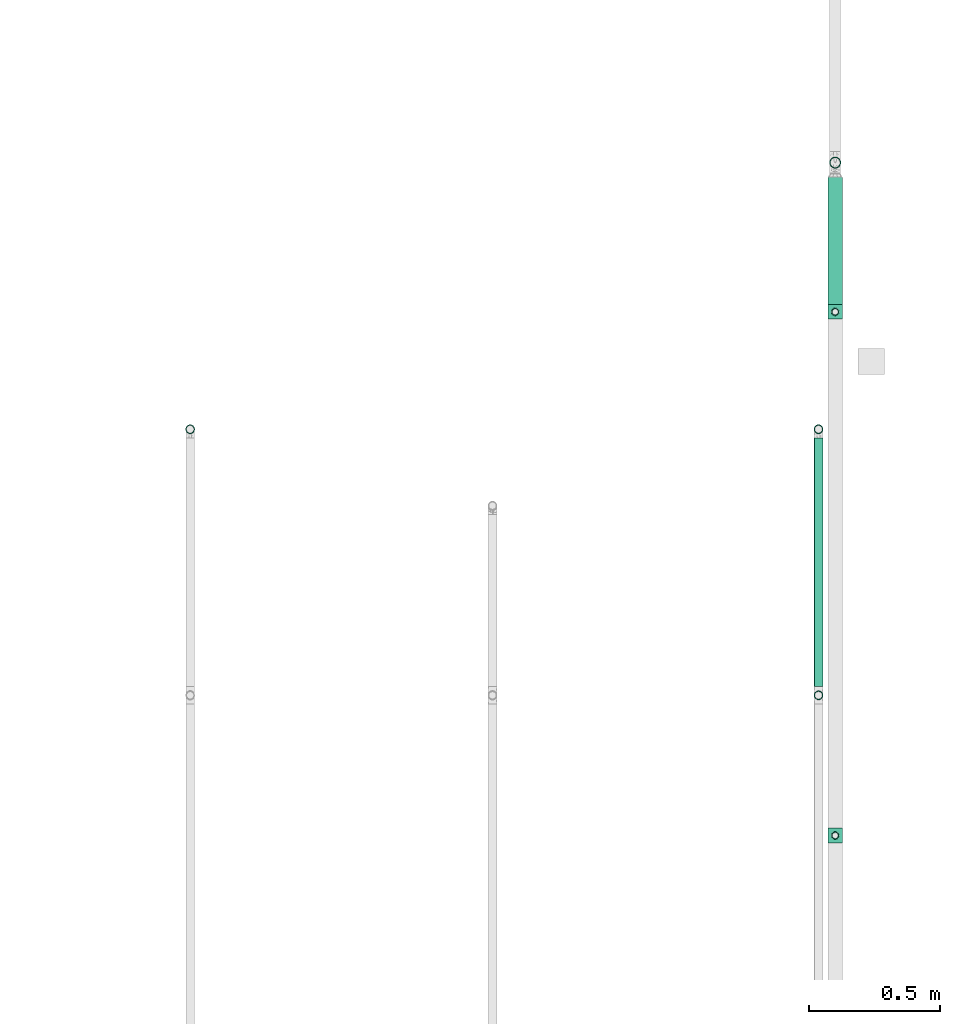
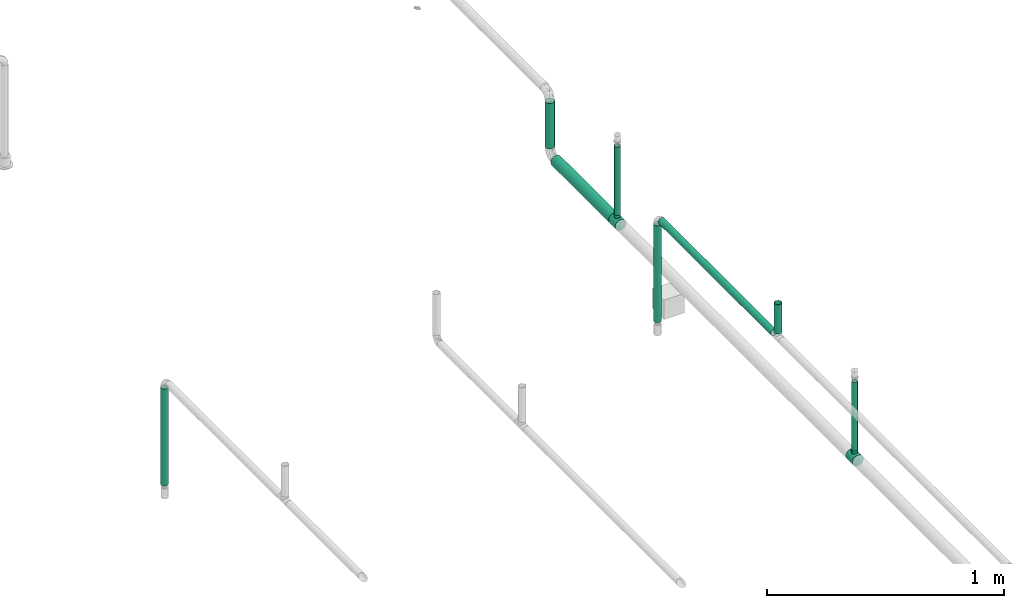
# One storey, part 14 of 95: 8 flow segments, 2 flow fittings.
"""IFC2X3 building model written with IfcOpenShell, lengths in millimetres."""

from ifc_helpers import new_model, entity, si_unit, converted_unit, derived_unit, direction, frame, origin_with_axes, origin_2d_with_axis, place, context, subcontext, project, spatial, hollow_circle, extrude, open_shell, surface_model, source, transform, mapped, type_object, element, save


model = new_model("IFC2X3")

# Units and contexts
model_context = context("Model", 3, precision=0.01, world=frame((0.0, 4.29681676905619e-09, 0.0)), true_north=direction((4.01073788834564e-13, 1.0)))
plan_context = context("Plan", 3, precision=0.01, world=frame((0.0, 4.29681676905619e-09, 0.0)), true_north=direction((4.01073788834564e-13, 1.0)))
body_context = subcontext(model_context, "Body", "Model", "MODEL_VIEW")
ifc_project = project(units=[converted_unit("PLANEANGLEUNIT", "DEGREE", entity("IfcPositiveLengthMeasure", 0.0174532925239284), si_unit("PLANEANGLEUNIT", "RADIAN"), dimensions=[0, 0, 0, 0, 0, 0, 0]), si_unit("AREAUNIT", "SQUARE_METRE"), si_unit("LENGTHUNIT", "METRE", prefix="MILLI"), si_unit("MASSUNIT", "GRAM", prefix="KILO"), si_unit("POWERUNIT", "WATT"), si_unit("PRESSUREUNIT", "PASCAL"), si_unit("FORCEUNIT", "NEWTON", prefix="KILO"), si_unit("ELECTRICVOLTAGEUNIT", "VOLT"), si_unit("ELECTRICCURRENTUNIT", "AMPERE"), si_unit("THERMODYNAMICTEMPERATUREUNIT", "DEGREE_CELSIUS"), si_unit("TIMEUNIT", "SECOND"), si_unit("VOLUMEUNIT", "CUBIC_METRE"), derived_unit("LINEARVELOCITYUNIT", [(si_unit("LENGTHUNIT", "METRE"), 1), (si_unit("TIMEUNIT", "SECOND"), -1)]), derived_unit("VOLUMETRICFLOWRATEUNIT", [(si_unit("VOLUMEUNIT", "CUBIC_METRE"), 1), (si_unit("TIMEUNIT", "SECOND"), -1)]), derived_unit("THERMALTRANSMITTANCEUNIT", [(si_unit("POWERUNIT", "WATT"), 1), (si_unit("THERMODYNAMICTEMPERATUREUNIT", "KELVIN"), -1), (si_unit("AREAUNIT", "SQUARE_METRE"), -1)]), derived_unit("SOUNDPRESSUREUNIT", [(si_unit("PRESSUREUNIT", "PASCAL"), 1)])], contexts=[model_context, plan_context])

# Site, building, storey
site_placement = place(None, frame((0.0, -4.29681676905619e-09, 0.0), z_axis=(0.0, 0.0, 1.0), x_axis=(1.0, 0.0, 0.0)))
site = spatial("IfcSite", under=ifc_project, at=site_placement, CompositionType="ELEMENT")
building_placement = place(site_placement, frame((0.0, 4.29681676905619e-09, 0.0), z_axis=(0.0, 0.0, 1.0), x_axis=(1.0, 0.0, 0.0)))
building = spatial("IfcBuilding", under=site, at=building_placement, Name="mc-building", CompositionType="ELEMENT")
storey_placement = place(building_placement, frame((0.0, 0.0, 210900.0), z_axis=(0.0, 0.0, 1.0), x_axis=(1.0, 0.0, 0.0)))
storey = spatial("IfcBuildingStorey", under=building, at=storey_placement, Name="Nivå F", CompositionType="ELEMENT", Elevation=210900.0)

# Flow fittings
pipe_fitting_type = type_object("IfcPipeFittingType", Name="magi_pipe_fe_tee_centric_90_NOR", PredefinedType="JUNCTION")
shared_shape_1 = source(origin_with_axes(), body_context, "Body", "SurfaceModel", [
    surface_model("IfcShellBasedSurfaceModel", [(-28.0, 6.98811, -26.08), (-28.0, 0.0, -27.0), (-28.0, 23.38269, -13.5), (-28.0, 13.5, -23.38269), (-28.0, 19.09188, -19.09188), (-28.0, -6.98811, -26.08), (-28.0, -13.5, 23.38269), (-28.0, -19.09188, -19.09188), (-28.0, -23.38269, -13.5), (-28.0, -13.5, -23.38269), (-28.0, -26.08, -6.98811), (-28.0, -27.0, 0.0), (-28.0, -23.38269, 13.5), (-28.0, 27.0, 0.0), (-28.0, 26.08, -6.98811), (-28.0, 23.38269, 13.5), (-28.0, 26.08, 6.98811), (-28.0, 6.98811, 26.08), (-28.0, 13.5, 23.38269), (-28.0, 19.09188, 19.09188), (-28.0, 0.0, 27.0), (-28.0, -19.09188, 19.09188), (-28.0, -26.08, 6.98811), (-28.0, -6.98811, 26.08), (28.0, 23.38269, -13.5), (28.0, 0.0, -27.0), (28.0, 6.98811, -26.08), (28.0, 19.09188, -19.09188), (28.0, 13.5, -23.38269), (28.0, -6.98811, -26.08), (28.0, -13.5, 23.38269), (28.0, -13.5, -23.38269), (28.0, -27.0, 0.0), (28.0, -19.09188, -19.09188), (28.0, -23.38269, -13.5), (28.0, -26.08, -6.98811), (28.0, 26.08, -6.98811), (28.0, 27.0, 0.0), (28.0, 26.08, 6.98811), (28.0, 23.38269, 13.5), (28.0, 19.09188, 19.09188), (28.0, 13.5, 23.38269), (28.0, 6.98811, 26.08), (28.0, 0.0, 27.0), (28.0, -23.38269, 13.5), (28.0, -19.09188, 19.09188), (28.0, -26.08, 6.98811), (28.0, -6.98811, 26.08), (28.0, -26.54, 3.49406), (13.13175, -26.56017, 4.85358), (14.0, -27.0, 0.0), (10.70092, -25.44621, 9.0272), (2.47065, -23.21862, 13.78027), (28.0, -24.73134, 10.24406), (7.04266, -24.13709, 12.09963), (-7.0439, -24.13745, 12.0989), (-28.0, -24.73134, 10.24406), (-10.70443, -25.44769, 9.02304), (-13.13218, -26.56039, 4.85241), (-28.0, -26.54, 3.49406), (-14.0, -27.0, 0.0), (-2.47466, -23.21904, 13.77955), (2.47065, -23.21862, -13.78027), (-28.0, -26.54, -3.49406), (-13.13218, -26.56039, -4.85241), (7.04266, -24.13709, -12.09963), (28.0, -24.73134, -10.24406), (28.0, -26.54, -3.49406), (13.13175, -26.56017, -4.85358), (10.70092, -25.44621, -9.0272), (-2.47466, -23.21904, -13.77955), (-7.0439, -24.13745, -12.0989), (-10.70443, -25.44769, -9.02304), (-28.0, -24.73134, -10.24406), (9.89949, -40.5, -9.89949), (0.0, -40.5, -14.0), (3.62347, -40.5, -13.52296), (7.0, -40.5, -12.12436), (12.12436, -40.5, -7.0), (13.52296, -40.5, -3.62347), (-12.12436, -40.5, -7.0), (-14.0, -40.5, 0.0), (-3.62347, -40.5, -13.52296), (-9.89949, -40.5, -9.89949), (-7.0, -40.5, -12.12436), (-13.52296, -40.5, -3.62347), (-13.52296, -40.5, 3.62347), (14.0, -40.5, 0.0), (13.52296, -40.5, 3.62347), (12.12436, -40.5, 7.0), (-9.89949, -40.5, 9.89949), (7.0, -40.5, 12.12436), (0.0, -40.5, 14.0), (9.89949, -40.5, 9.89949), (3.62347, -40.5, 13.52296), (-12.12436, -40.5, 7.0), (-3.62347, -40.5, 13.52296), (-7.0, -40.5, 12.12436), (-13.56609, -26.78019, 2.42621), (-4.75928, -23.67825, 12.93923), (13.56587, -26.78009, 2.42679), (-0.002, -23.21883, 13.77991), (4.75665, -23.67785, 12.93995), (13.56587, -26.78009, -2.42679), (4.75665, -23.67785, -12.93995), (-0.002, -23.21883, -13.77991), (-4.75928, -23.67825, -12.93923), (-13.56609, -26.78019, -2.42621)], [open_shell([[[0, 1, 2]], [[3, 0, 4]], [[5, 2, 1]], [[4, 0, 2]], [[6, 2, 5]], [[7, 8, 9]], [[5, 9, 6]], [[10, 11, 8]], [[9, 8, 11]], [[11, 12, 9]], [[13, 14, 2]], [[15, 16, 13]], [[2, 6, 15]], [[17, 18, 19]], [[15, 17, 19]], [[17, 15, 20]], [[21, 6, 12]], [[11, 22, 12]], [[23, 20, 6]], [[12, 6, 9]], [[6, 20, 15]], [[13, 2, 15]], [[24, 25, 26]], [[27, 26, 28]], [[25, 24, 29]], [[24, 26, 27]], [[24, 30, 29]], [[31, 32, 33]], [[32, 31, 29]], [[34, 32, 35]], [[32, 34, 33]], [[32, 29, 30]], [[24, 36, 37]], [[37, 38, 39]], [[39, 30, 24]], [[40, 41, 42]], [[40, 42, 39]], [[43, 39, 42]], [[44, 30, 45]], [[30, 44, 46]], [[30, 43, 47]], [[46, 32, 30]], [[39, 43, 30]], [[39, 24, 37]], [[48, 46, 49]], [[50, 32, 48]], [[46, 51, 49]], [[44, 45, 52]], [[50, 48, 49]], [[51, 53, 54]], [[52, 54, 44]], [[45, 21, 52]], [[54, 53, 44]], [[55, 56, 57]], [[58, 59, 60]], [[11, 60, 59]], [[58, 57, 22]], [[55, 61, 12]], [[51, 46, 53]], [[12, 56, 55]], [[12, 61, 21]], [[57, 56, 22]], [[61, 52, 21]], [[58, 22, 59]], [[45, 6, 21]], [[20, 47, 43]], [[23, 30, 47]], [[17, 43, 42]], [[39, 38, 16]], [[19, 41, 40]], [[15, 40, 39]], [[42, 41, 18]], [[13, 38, 37]], [[6, 30, 23]], [[23, 47, 20]], [[17, 20, 43]], [[42, 18, 17]], [[18, 41, 19]], [[15, 19, 40]], [[16, 15, 39]], [[38, 13, 16]], [[30, 6, 45]], [[2, 36, 24]], [[14, 37, 36]], [[4, 24, 27]], [[25, 29, 5]], [[0, 28, 26]], [[1, 26, 25]], [[27, 28, 3]], [[9, 29, 31]], [[13, 37, 14]], [[14, 36, 2]], [[4, 2, 24]], [[27, 3, 4]], [[3, 28, 0]], [[1, 0, 26]], [[5, 1, 25]], [[29, 9, 5]], [[31, 7, 9]], [[33, 34, 62]], [[60, 63, 64]], [[65, 62, 34]], [[66, 65, 34]], [[33, 62, 7]], [[32, 50, 67]], [[68, 69, 35]], [[68, 67, 50]], [[65, 66, 69]], [[35, 69, 66]], [[70, 71, 8]], [[72, 10, 73]], [[8, 7, 70]], [[72, 73, 71]], [[70, 7, 62]], [[72, 64, 10]], [[68, 35, 67]], [[64, 63, 10]], [[63, 60, 11]], [[73, 8, 71]], [[33, 7, 31]], [[74, 75, 76]], [[74, 76, 77]], [[74, 78, 79]], [[75, 74, 80]], [[81, 74, 79]], [[82, 83, 84]], [[83, 82, 80]], [[80, 81, 85]], [[80, 82, 75]], [[74, 81, 80]], [[79, 86, 81]], [[87, 88, 89]], [[90, 87, 89]], [[89, 91, 92]], [[91, 89, 93]], [[94, 92, 91]], [[86, 90, 95]], [[86, 87, 90]], [[90, 96, 97]], [[96, 90, 92]], [[89, 92, 90]], [[87, 86, 79]], [[86, 98, 81]], [[57, 95, 90]], [[86, 95, 58]], [[90, 97, 55]], [[99, 97, 96]], [[98, 60, 81]], [[58, 95, 57]], [[100, 49, 88]], [[96, 61, 99]], [[55, 57, 90]], [[92, 52, 101]], [[91, 102, 94]], [[52, 92, 94]], [[102, 91, 54]], [[86, 58, 98]], [[100, 87, 50]], [[89, 51, 93]], [[54, 91, 93]], [[49, 89, 88]], [[93, 51, 54]], [[52, 94, 102]], [[87, 100, 88]], [[49, 51, 89]], [[99, 55, 97]], [[92, 61, 96]], [[101, 61, 92]], [[79, 103, 87]], [[69, 78, 74]], [[79, 78, 68]], [[74, 77, 65]], [[103, 50, 87]], [[68, 78, 69]], [[76, 62, 104]], [[65, 69, 74]], [[75, 70, 105]], [[84, 106, 82]], [[104, 77, 76]], [[104, 65, 77]], [[79, 68, 103]], [[82, 70, 75]], [[64, 80, 85]], [[107, 81, 60]], [[107, 64, 85]], [[83, 80, 72]], [[75, 62, 76]], [[106, 70, 82]], [[84, 71, 106]], [[84, 83, 71]], [[71, 83, 72]], [[72, 80, 64]], [[81, 107, 85]], [[105, 62, 75]]])]),
])
for number, where, z_axis, x_axis, name in (
    (1, (535962.24677, 445656.17841, 3990.42676999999), (-1.0, 0.0, 0.0), (0.0, 1.0, 0.0), "magi_pipe_fe_tee_centric_90_NOR"),
    (2, (535962.24677, 447656.17841, 3990.42676999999), (-1.0, 0.0, 0.0), (0.0, 1.0, 0.0), "magi_pipe_fe_tee_centric_90_NOR"),
):
    element("IfcFlowFitting", number, at=place(storey_placement, frame(where, z_axis=z_axis, x_axis=x_axis)), inside=storey, type_object=pipe_fitting_type, Name=name, context=body_context, shape_type="MappedRepresentation", body=[
        mapped(shared_shape_1, transform((0.0, 0.0, 0.0), scale=1.0)),
    ])

# Flow segments
pipe_segment_type_1 = type_object("IfcPipeSegmentType", Name="SSt", PredefinedType="RIGIDSEGMENT")
shared_shape_2 = source(origin_with_axes(), body_context, "Body", "SweptSolid", [
    extrude(hollow_circle(Radius=14.0, WallThickness=2.0, at=origin_2d_with_axis()), frame((0.0, 0.0, 0.0), z_axis=(1.0, 0.0, 0.0), x_axis=(0.0, 1.0, 0.0)), (0.0, 0.0, 1.0), 352.5),
])
for number, where, z_axis, x_axis in (
    (3, (535962.24677, 445656.17841, 4030.92676999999), (1.0, 0.0, 0.0), (0.0, 0.0, 1.0)),
    (4, (535962.24677, 447656.17841, 4030.92676999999), (1.0, 0.0, 0.0), (0.0, 0.0, 1.0)),
):
    element("IfcFlowSegment", number, at=place(storey_placement, frame(where, z_axis=z_axis, x_axis=x_axis)), inside=storey, type_object=pipe_segment_type_1, Name="SSt", context=body_context, shape_type="MappedRepresentation", body=[
        mapped(shared_shape_2, transform((0.0, 0.0, 0.0), scale=1.0)),
    ])
shared_shape_3 = source(origin_with_axes(), body_context, "Body", "SweptSolid", [
    extrude(hollow_circle(Radius=27.0, WallThickness=2.0, at=origin_2d_with_axis()), frame((0.0, 0.0, 0.0), z_axis=(1.0, 0.0, 0.0), x_axis=(0.0, 1.0, 0.0)), (0.0, 0.0, 1.0), 488.0),
])
flow_segment_1_placement = place(storey_placement, frame((535962.24677, 448172.17841, 3990.42676999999), z_axis=(0.0, 0.0, 1.0), x_axis=(0.0, -1.0, 0.0)))
element("IfcFlowSegment", 5, at=flow_segment_1_placement, inside=storey, type_object=pipe_segment_type_1, Name="SSt", context=body_context, shape_type="MappedRepresentation", body=[
    mapped(shared_shape_3, transform((0.0, 0.0, 0.0), scale=1.0)),
])
pipe_segment_type_2 = type_object("IfcPipeSegmentType", Name="Stålrør normaltykke", PredefinedType="RIGIDSEGMENT")
shared_shape_4 = source(origin_with_axes(), body_context, "Body", "SweptSolid", [
    extrude(hollow_circle(Radius=21.2, WallThickness=2.0, at=origin_2d_with_axis()), frame((0.0, 0.0, 0.0), z_axis=(1.0, 0.0, 0.0), x_axis=(0.0, 1.0, 0.0)), (0.0, 0.0, 1.0), 234.8),
])
flow_segment_2_placement = place(storey_placement, frame((535962.24677, 448226.17841, 4032.82677000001), z_axis=(0.0, -1.0, 0.0), x_axis=(0.0, 0.0, 1.0)))
element("IfcFlowSegment", 6, at=flow_segment_2_placement, inside=storey, type_object=pipe_segment_type_2, Name="Stålrør normaltykke", context=body_context, shape_type="MappedRepresentation", body=[
    mapped(shared_shape_4, transform((0.0, 0.0, 0.0), scale=1.0)),
])
shared_shape_5 = source(origin_with_axes(), body_context, "Body", "SweptSolid", [
    extrude(hollow_circle(Radius=16.9, WallThickness=2.0, at=origin_2d_with_axis()), frame((0.0, 0.0, 0.0), z_axis=(1.0, 0.0, 0.0), x_axis=(0.0, 1.0, 0.0)), (0.0, 0.0, 1.0), 499.1),
])
for number, where, z_axis, x_axis in (
    (7, (533498.68266, 447207.85, 3775.348), (-1.0, 0.0, 0.0), (0.0, 0.0, 1.0)),
    (8, (535898.68266, 447207.85, 3775.348), (-1.0, 0.0, 0.0), (0.0, 0.0, 1.0)),
):
    element("IfcFlowSegment", number, at=place(storey_placement, frame(where, z_axis=z_axis, x_axis=x_axis)), inside=storey, type_object=pipe_segment_type_2, Name="Stålrør normaltykke", context=body_context, shape_type="MappedRepresentation", body=[
        mapped(shared_shape_5, transform((0.0, 0.0, 0.0), scale=1.0)),
    ])
shared_shape_6 = source(origin_with_axes(), body_context, "Body", "SweptSolid", [
    extrude(hollow_circle(Radius=16.9, WallThickness=2.0, at=origin_2d_with_axis()), frame((0.0, 0.0, 0.0), z_axis=(1.0, 0.0, 0.0), x_axis=(0.0, 1.0, 0.0)), (0.0, 0.0, 1.0), 948.5),
])
flow_segment_3_placement = place(storey_placement, frame((535898.68266, 447174.05, 4308.26618000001), z_axis=(0.0, 0.0, 1.0), x_axis=(0.0, -1.0, 0.0)))
element("IfcFlowSegment", 9, at=flow_segment_3_placement, inside=storey, type_object=pipe_segment_type_2, Name="Stålrør normaltykke", context=body_context, shape_type="MappedRepresentation", body=[
    mapped(shared_shape_6, transform((0.0, 0.0, 0.0), scale=1.0)),
])
shared_shape_7 = source(origin_with_axes(), body_context, "Body", "SweptSolid", [
    extrude(hollow_circle(Radius=16.9, WallThickness=2.0, at=origin_2d_with_axis()), frame((0.0, 0.0, 0.0), z_axis=(1.0, 0.0, 0.0), x_axis=(0.0, 1.0, 0.0)), (0.0, 0.0, 1.0), 150.2),
])
flow_segment_4_placement = place(storey_placement, frame((535898.68266, 446191.7762, 4333.61618000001), z_axis=(0.0, 1.0, 0.0), x_axis=(0.0, 0.0, 1.0)))
element("IfcFlowSegment", 10, at=flow_segment_4_placement, inside=storey, type_object=pipe_segment_type_2, Name="Stålrør normaltykke", context=body_context, shape_type="MappedRepresentation", body=[
    mapped(shared_shape_7, transform((0.0, 0.0, 0.0), scale=1.0)),
])

save(model, "model.ifc")
